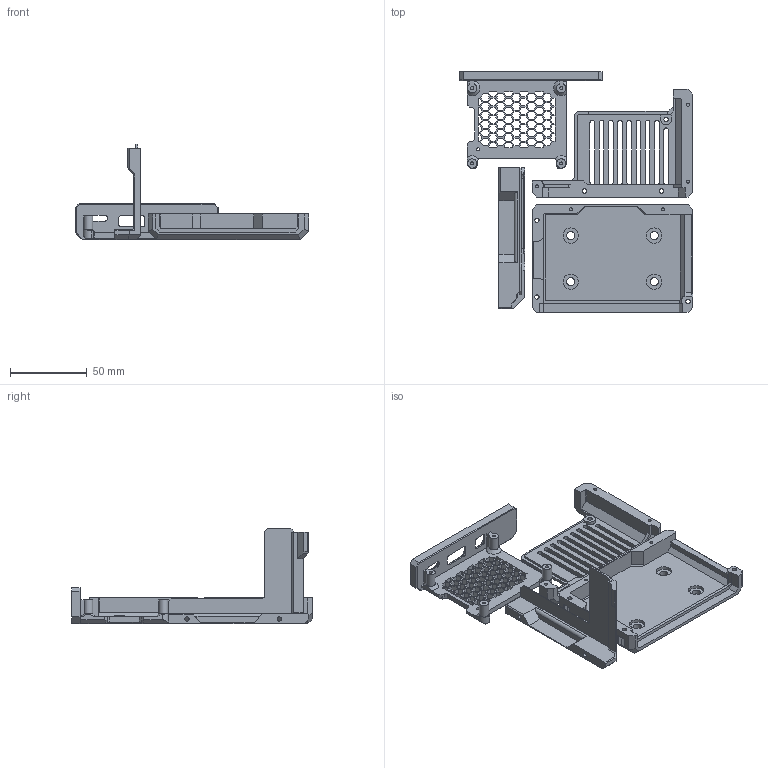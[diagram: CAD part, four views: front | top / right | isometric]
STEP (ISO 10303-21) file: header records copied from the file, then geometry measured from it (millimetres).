
FILE_DESCRIPTION(/* description */ (''),/* implementation_level */ '2;1');
FILE_NAME(/* name */ 'Pi_3_B_+_NO_FAN.step',/* time_stamp */ '2023-04-11T10:17:18+01:00',/* author */ (''),/* organization */ (''),/* preprocessor_version */ 'ST-DEVELOPER v19.2',/* originating_system */ 'Autodesk Translation Framework v12.4.0.73',/* authorisation */ '');
FILE_SCHEMA (('AUTOMOTIVE_DESIGN { 1 0 10303 214 3 1 1 }'));
Length unit declared in the file: millimetre
Products named in the file (7): Pi_3_B_+_NO_FAN; BOTTOM (1); CASE; TOP; ACCESS_COVER; PI3_MOUNT_PI3 A/B_MOUNT_1.1 v5; PI3 A/B_MOUNT_1.1
Assembly tree (6 placements, depth 3):
  Pi_3_B_+_NO_FAN
    BOTTOM (1)
    CASE
      TOP
    ACCESS_COVER
    PI3_MOUNT_PI3 A/B_MOUNT_1.1 v5
      PI3 A/B_MOUNT_1.1
Bounding box: 151.68 x 156.65 x 61.9 mm (x, y, z)
Volume: 90153 mm3; surface area: 59343.2 mm2
Topology: 4 solids, 4 shells, 981 faces, 2724 edges, 1753 vertices
Faces by surface type: plane 829, cylinder 92, cone 32, bspline 26, torus 2
Full cylindrical faces by diameter (mm): 2 x12, 2.8 x8, 5 x1, 5.3 x4, 6 x2, 10 x4
Entity records: 31738 total; most frequent: CARTESIAN_POINT 6179, ORIENTED_EDGE 5448, DIRECTION 4857, EDGE_CURVE 2724, LINE 2375, VECTOR 2375, VERTEX_POINT 1753, AXIS2_PLACEMENT_3D 1241
